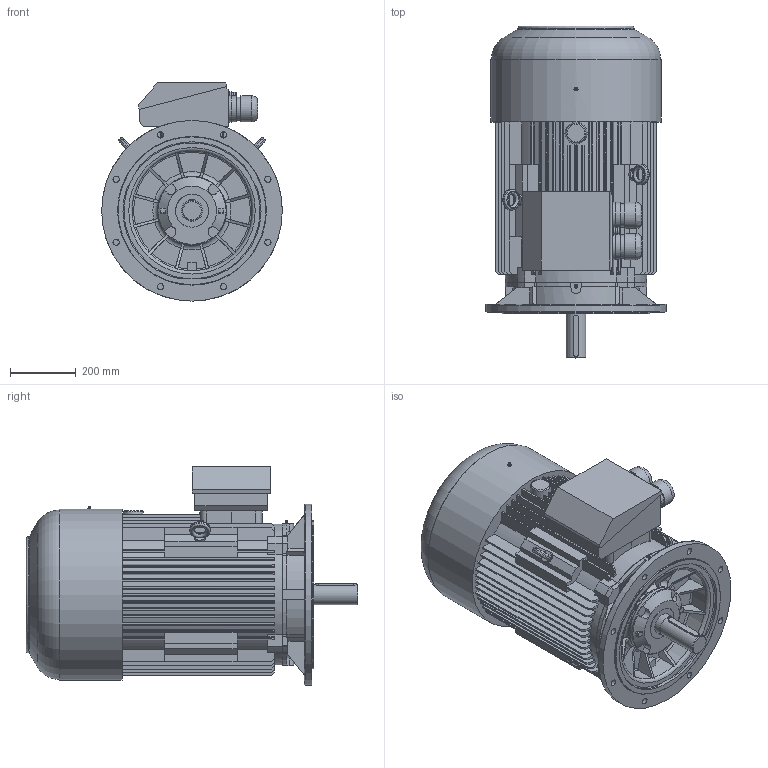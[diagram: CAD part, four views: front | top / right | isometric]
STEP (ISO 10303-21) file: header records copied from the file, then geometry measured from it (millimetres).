
FILE_DESCRIPTION( ( 'Unknown' ), '1' );
FILE_NAME( 'P:/3D_Bry³y silników skatalogowane/SIE/2SIE250/STEP/2SIEK250M2 silnik.stp', 'Unknown', ( 'Unknown' ), ( 'Unknown' ), 'XStep 1.0', 'Unknown', ' ' );
FILE_SCHEMA( ( 'CONFIG_CONTROL_DESIGN' ) );
Length unit declared in the file: millimetre
Products named in the file (3): 1; 2; 3
Bounding box: 550 x 1010 x 664.3 mm (x, y, z)
Volume: 154670431.1 mm3; surface area: 3658617.8 mm2
Topology: 3 solids, 6 shells, 796 faces, 2201 edges, 1452 vertices
Faces by surface type: plane 578, cylinder 160, torus 45, cone 11, bspline 2
Full cylindrical faces by diameter (mm): 1.6 x2, 5 x6, 11.083 x1, 19 x9, 21 x1, 23 x1, 27 x1, 35 x4, 40 x2, 60 x1, 64.5 x1, 71.32 x2, 78.781 x2, 80.024 x2, 81.268 x2, 100 x1, 208 x1, 210 x1, 450 x1, 520 x1, 550 x1
Entity records: 27053 total; most frequent: CARTESIAN_POINT 6827, ORIENTED_EDGE 4208, DIRECTION 4063, EDGE_CURVE 2104, VERTEX_POINT 1428, LINE 1415, VECTOR 1415, AXIS2_PLACEMENT_3D 1324
